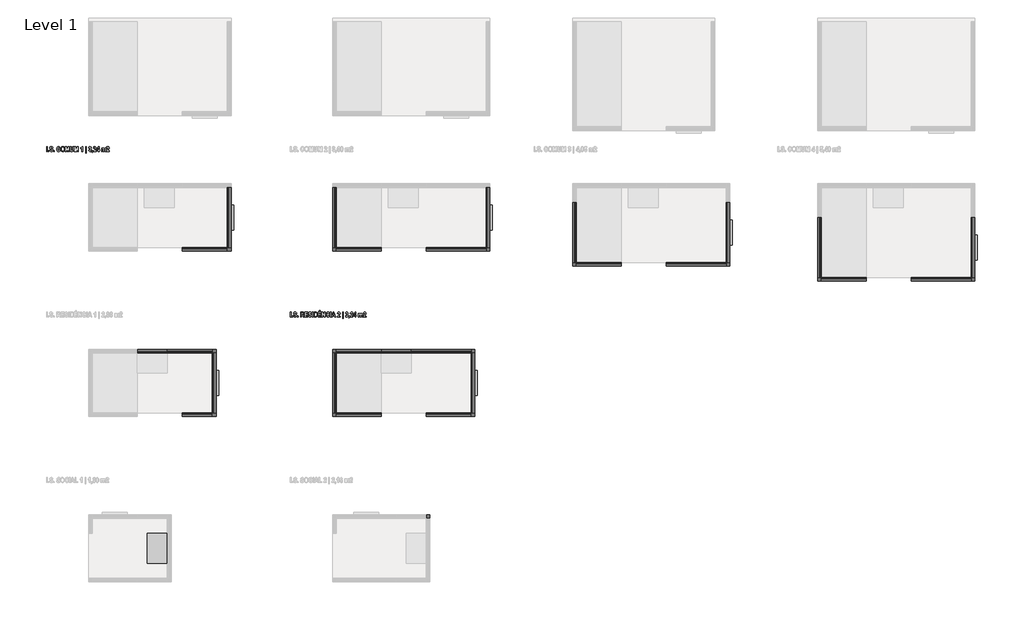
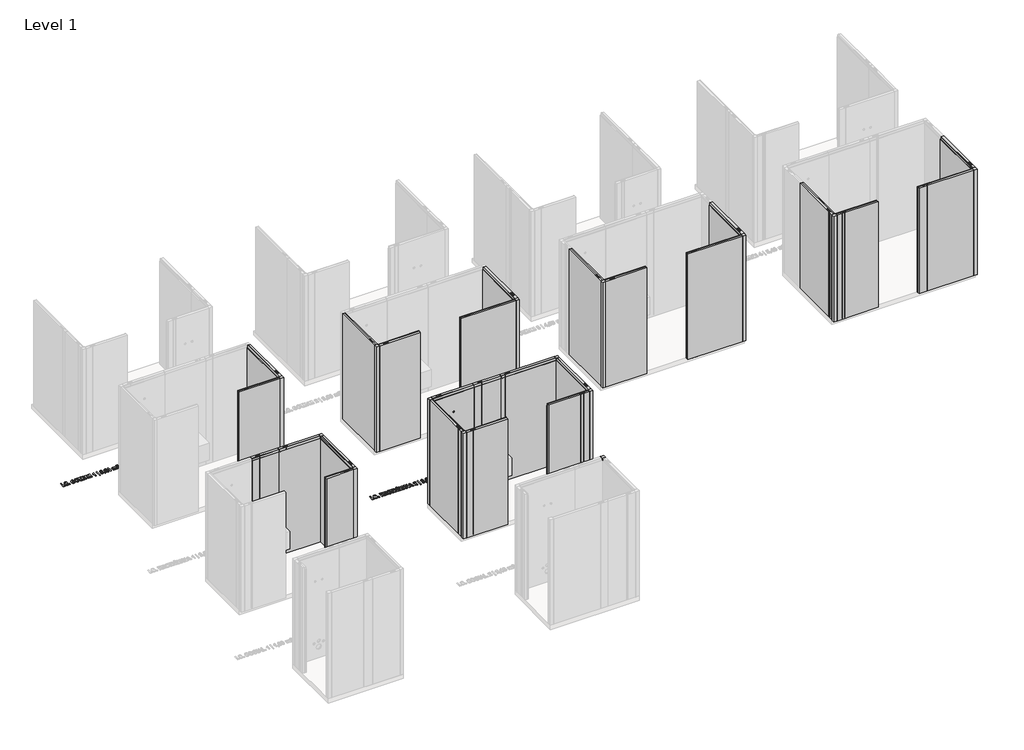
# One storey, part 3 of 10: 43 proxies.
"""IFC4 building model written with IfcOpenShell, lengths in millimetres."""

from ifc_helpers import new_model, si_unit, origin, origin_with_axes, place, context, project, spatial, polyline, outline, extrude, transform, mapped, element, save
from components import generic_models_3c551f1f, generic_models_aefc3c11, generic_models_87fa6935, generic_models_34b291b7, generic_models_8d7f3108, generic_models_87e237a0, generic_models_7c24a650, generic_models_bfa109d8, generic_models_15d7caf9, generic_models_edb91717

model = new_model("IFC4")

# Units and contexts
model_context = context("Model", 3, world=origin())
ifc_project = project(units=[si_unit("LENGTHUNIT", "METRE", prefix="MILLI")], contexts=[model_context])

# Site, building, storey
site = spatial("IfcSite", under=ifc_project)
building = spatial("IfcBuilding", under=site)
storey = spatial("IfcBuildingStorey", under=building, Name="Level 1", Elevation=0.0)

# Proxies
placement = place(None, origin())
generic_models_shape = generic_models_3c551f1f(model_context)
element("IfcBuildingElementProxy", 1, Name="ParedeGeral_Blufab : Parede Geral - Largura 60 cm", ObjectType="ParedeGeral_Blufab : Parede Geral - Largura 60 cm", at=placement, inside=storey, context=model_context, shape_type="MappedRepresentation", body=[
    mapped(generic_models_shape, transform((-6371.3404571, -3398.9908622, 0.0), x_axis=(-1.0, 0.0, 0.0), y_axis=(0.0, -1.0, 0.0), z_axis=(0.0, 0.0, 1.0))),
])
generic_models_2_shape = generic_models_aefc3c11(model_context)
element("IfcBuildingElementProxy", 2, Name="ParedeGeral_Blufab : Parede Geral - Largura 90 cm", ObjectType="ParedeGeral_Blufab : Parede Geral - Largura 90 cm", at=placement, inside=storey, context=model_context, shape_type="MappedRepresentation", body=[
    mapped(generic_models_2_shape, transform((-7271.3404571, -2198.9908622, 0.0), x_axis=(1.0, 0.0, 0.0), y_axis=(0.0, 1.0, 0.0), z_axis=(0.0, 0.0, 1.0))),
])
element("IfcBuildingElementProxy", 3, Name="ParedeGeral_Blufab : Parede Geral - Largura 90 cm", ObjectType="ParedeGeral_Blufab : Parede Geral - Largura 90 cm", at=placement, inside=storey, context=model_context, shape_type="MappedRepresentation", body=[
    mapped(generic_models_2_shape, transform((-1196.3404571, -3398.9908622, 0.0), x_axis=(-1.0, 0.0, 0.0), y_axis=(0.0, -1.0, 0.0), z_axis=(0.0, 0.0, 1.0))),
])
generic_models_3_shape = generic_models_87fa6935(model_context)
element("IfcBuildingElementProxy", 4, Name="ParedeGeral_Blufab : Parede Geral - Largura 120 cm", ObjectType="ParedeGeral_Blufab : Parede Geral - Largura 120 cm", at=placement, inside=storey, context=model_context, shape_type="MappedRepresentation", body=[
    mapped(generic_models_3_shape, transform((-3896.3404571, -85.8090572, 0.0), x_axis=(0.0, 1.0, 0.0), y_axis=(-1.0, 0.0, 0.0), z_axis=(0.0, 0.0, 1.0))),
])
element("IfcBuildingElementProxy", 5, Name="ParedeGeral_Blufab : Parede Geral - Largura 120 cm", ObjectType="ParedeGeral_Blufab : Parede Geral - Largura 120 cm", at=placement, inside=storey, context=model_context, shape_type="MappedRepresentation", body=[
    mapped(generic_models_3_shape, transform((903.6595429, -385.8090572, 0.0), x_axis=(0.0, 1.0, 0.0), y_axis=(-1.0, 0.0, 0.0), z_axis=(0.0, 0.0, 1.0))),
])
element("IfcBuildingElementProxy", 6, Name="ParedeGeral_Blufab : Parede Geral - Largura 120 cm", ObjectType="ParedeGeral_Blufab : Parede Geral - Largura 120 cm", at=placement, inside=storey, context=model_context, shape_type="MappedRepresentation", body=[
    mapped(generic_models_3_shape, transform((5803.6595429, -685.8090572, 0.0), x_axis=(0.0, 1.0, 0.0), y_axis=(-1.0, 0.0, 0.0), z_axis=(0.0, 0.0, 1.0))),
])
element("IfcBuildingElementProxy", 7, Name="ParedeGeral_Blufab : Parede Geral - Largura 120 cm", ObjectType="ParedeGeral_Blufab : Parede Geral - Largura 120 cm", at=placement, inside=storey, context=model_context, shape_type="MappedRepresentation", body=[
    mapped(generic_models_3_shape, transform((-3896.3404571, -3398.9908622, 0.0), x_axis=(0.0, 1.0, 0.0), y_axis=(-1.0, 0.0, 0.0), z_axis=(0.0, 0.0, 1.0))),
])
element("IfcBuildingElementProxy", 8, Name="ParedeGeral_Blufab : Parede Geral - Largura 120 cm", ObjectType="ParedeGeral_Blufab : Parede Geral - Largura 120 cm", at=placement, inside=storey, context=model_context, shape_type="MappedRepresentation", body=[
    mapped(generic_models_3_shape, transform((-2396.3404571, -2198.9908622, 0.0), x_axis=(1.0, 0.0, 0.0), y_axis=(0.0, 1.0, 0.0), z_axis=(0.0, 0.0, 1.0))),
])
generic_models_4_shape = generic_models_34b291b7(model_context)
element("IfcBuildingElementProxy", 9, Name="ParedeLavatório_Blufab : Parede Lavatório - Largura 60 cm", ObjectType="ParedeLavatório_Blufab : Parede Lavatório - Largura 60 cm", at=placement, inside=storey, context=model_context, shape_type="MappedRepresentation", body=[
    mapped(generic_models_4_shape, transform((-7871.3404571, -2198.9908622, 0.0), x_axis=(1.0, 0.0, 0.0), y_axis=(0.0, 1.0, 0.0), z_axis=(0.0, 0.0, 1.0))),
])
element("IfcBuildingElementProxy", 10, Name="ParedeLavatório_Blufab : Parede Lavatório - Largura 60 cm", ObjectType="ParedeLavatório_Blufab : Parede Lavatório - Largura 60 cm", at=placement, inside=storey, context=model_context, shape_type="MappedRepresentation", body=[
    mapped(generic_models_4_shape, transform((-2996.3404571, -2198.9908622, 0.0), x_axis=(1.0, 0.0, 0.0), y_axis=(0.0, 1.0, 0.0), z_axis=(0.0, 0.0, 1.0))),
])
generic_models_5_shape = generic_models_8d7f3108(model_context)
element("IfcBuildingElementProxy", 11, Name="ParedeDuche_Blufab : Parede Duche- Largura 90 cm", ObjectType="ParedeDuche_Blufab : Parede Duche- Largura 90 cm", at=placement, inside=storey, context=model_context, shape_type="MappedRepresentation", body=[
    mapped(generic_models_5_shape, transform((-3896.3404571, -2198.9908622, 0.0), x_axis=(1.0, 0.0, 0.0), y_axis=(0.0, 1.0, 0.0), z_axis=(0.0, 0.0, 1.0))),
])
generic_models_6_shape = generic_models_87e237a0(model_context)
element("IfcBuildingElementProxy", 12, Name="PerfilCanto_Blufab : Parede Geral - Largura 60 cm", ObjectType="PerfilCanto_Blufab : Parede Geral - Largura 60 cm", at=placement, inside=storey, context=model_context, shape_type="MappedRepresentation", body=[
    mapped(generic_models_6_shape, transform((-6071.3404571, -158.8090572, 0.0), x_axis=(1.0, 0.0, 0.0), y_axis=(0.0, 1.0, 0.0), z_axis=(0.0, 0.0, 1.0))),
])
element("IfcBuildingElementProxy", 13, Name="PerfilCanto_Blufab : Parede Geral - Largura 60 cm", ObjectType="PerfilCanto_Blufab : Parede Geral - Largura 60 cm", at=placement, inside=storey, context=model_context, shape_type="MappedRepresentation", body=[
    mapped(generic_models_6_shape, transform((-3969.3404571, -158.8090572, 0.0), x_axis=(1.0, 0.0, 0.0), y_axis=(0.0, 1.0, 0.0), z_axis=(0.0, 0.0, 1.0))),
])
element("IfcBuildingElementProxy", 14, Name="PerfilCanto_Blufab : Parede Geral - Largura 60 cm", ObjectType="PerfilCanto_Blufab : Parede Geral - Largura 60 cm", at=placement, inside=storey, context=model_context, shape_type="MappedRepresentation", body=[
    mapped(generic_models_6_shape, transform((-896.3404571, -158.8090572, 0.0), x_axis=(1.0, 0.0, 0.0), y_axis=(0.0, 1.0, 0.0), z_axis=(0.0, 0.0, 1.0))),
])
element("IfcBuildingElementProxy", 15, Name="PerfilCanto_Blufab : Parede Geral - Largura 60 cm", ObjectType="PerfilCanto_Blufab : Parede Geral - Largura 60 cm", at=placement, inside=storey, context=model_context, shape_type="MappedRepresentation", body=[
    mapped(generic_models_6_shape, transform((830.6595429, -458.8090572, 0.0), x_axis=(1.0, 0.0, 0.0), y_axis=(0.0, 1.0, 0.0), z_axis=(0.0, 0.0, 1.0))),
])
element("IfcBuildingElementProxy", 16, Name="PerfilCanto_Blufab : Parede Geral - Largura 60 cm", ObjectType="PerfilCanto_Blufab : Parede Geral - Largura 60 cm", at=placement, inside=storey, context=model_context, shape_type="MappedRepresentation", body=[
    mapped(generic_models_6_shape, transform((3903.6595429, -458.8090572, 0.0), x_axis=(1.0, 0.0, 0.0), y_axis=(0.0, 1.0, 0.0), z_axis=(0.0, 0.0, 1.0))),
])
element("IfcBuildingElementProxy", 17, Name="PerfilCanto_Blufab : Parede Geral - Largura 60 cm", ObjectType="PerfilCanto_Blufab : Parede Geral - Largura 60 cm", at=placement, inside=storey, context=model_context, shape_type="MappedRepresentation", body=[
    mapped(generic_models_6_shape, transform((5730.6595429, -758.8090572, 0.0), x_axis=(1.0, 0.0, 0.0), y_axis=(0.0, 1.0, 0.0), z_axis=(0.0, 0.0, 1.0))),
])
element("IfcBuildingElementProxy", 18, Name="PerfilCanto_Blufab : Parede Geral - Largura 60 cm", ObjectType="PerfilCanto_Blufab : Parede Geral - Largura 60 cm", at=placement, inside=storey, context=model_context, shape_type="MappedRepresentation", body=[
    mapped(generic_models_6_shape, transform((8803.6595429, -758.8090572, 0.0), x_axis=(1.0, 0.0, 0.0), y_axis=(0.0, 1.0, 0.0), z_axis=(0.0, 0.0, 1.0))),
])
element("IfcBuildingElementProxy", 19, Name="PerfilCanto_Blufab : Parede Geral - Largura 60 cm", ObjectType="PerfilCanto_Blufab : Parede Geral - Largura 60 cm", at=placement, inside=storey, context=model_context, shape_type="MappedRepresentation", body=[
    mapped(generic_models_6_shape, transform((-6371.3404571, -2198.9908622, 0.0), x_axis=(1.0, 0.0, 0.0), y_axis=(0.0, 1.0, 0.0), z_axis=(0.0, 0.0, 1.0))),
])
element("IfcBuildingElementProxy", 20, Name="PerfilCanto_Blufab : Parede Geral - Largura 60 cm", ObjectType="PerfilCanto_Blufab : Parede Geral - Largura 60 cm", at=placement, inside=storey, context=model_context, shape_type="MappedRepresentation", body=[
    mapped(generic_models_6_shape, transform((-6371.3404571, -3471.9908622, 0.0), x_axis=(1.0, 0.0, 0.0), y_axis=(0.0, 1.0, 0.0), z_axis=(0.0, 0.0, 1.0))),
])
element("IfcBuildingElementProxy", 21, Name="PerfilCanto_Blufab : Parede Geral - Largura 60 cm", ObjectType="PerfilCanto_Blufab : Parede Geral - Largura 60 cm", at=placement, inside=storey, context=model_context, shape_type="MappedRepresentation", body=[
    mapped(generic_models_6_shape, transform((-3969.3404571, -2198.9908622, 0.0), x_axis=(1.0, 0.0, 0.0), y_axis=(0.0, 1.0, 0.0), z_axis=(0.0, 0.0, 1.0))),
])
element("IfcBuildingElementProxy", 22, Name="PerfilCanto_Blufab : Parede Geral - Largura 60 cm", ObjectType="PerfilCanto_Blufab : Parede Geral - Largura 60 cm", at=placement, inside=storey, context=model_context, shape_type="MappedRepresentation", body=[
    mapped(generic_models_6_shape, transform((-3969.3404571, -3471.9908622, 0.0), x_axis=(1.0, 0.0, 0.0), y_axis=(0.0, 1.0, 0.0), z_axis=(0.0, 0.0, 1.0))),
])
element("IfcBuildingElementProxy", 23, Name="PerfilCanto_Blufab : Parede Geral - Largura 60 cm", ObjectType="PerfilCanto_Blufab : Parede Geral - Largura 60 cm", at=placement, inside=storey, context=model_context, shape_type="MappedRepresentation", body=[
    mapped(generic_models_6_shape, transform((-1196.3404571, -2198.9908622, 0.0), x_axis=(1.0, 0.0, 0.0), y_axis=(0.0, 1.0, 0.0), z_axis=(0.0, 0.0, 1.0))),
])
element("IfcBuildingElementProxy", 24, Name="PerfilCanto_Blufab : Parede Geral - Largura 60 cm", ObjectType="PerfilCanto_Blufab : Parede Geral - Largura 60 cm", at=placement, inside=storey, context=model_context, shape_type="MappedRepresentation", body=[
    mapped(generic_models_6_shape, transform((-1196.3404571, -3471.9908622, 0.0), x_axis=(1.0, 0.0, 0.0), y_axis=(0.0, 1.0, 0.0), z_axis=(0.0, 0.0, 1.0))),
])
element("IfcBuildingElementProxy", 25, Name="PerfilCanto_Blufab : Parede Geral - Largura 60 cm", ObjectType="PerfilCanto_Blufab : Parede Geral - Largura 60 cm", at=placement, inside=storey, context=model_context, shape_type="MappedRepresentation", body=[
    mapped(generic_models_6_shape, transform((-2096.3404571, -5512.1726672, 0.0), x_axis=(1.0, 0.0, 0.0), y_axis=(0.0, 1.0, 0.0), z_axis=(0.0, 0.0, 1.0))),
])
element("IfcBuildingElementProxy", 26, Name="PerfilCanto_Blufab : Parede Geral - Largura 60 cm", ObjectType="PerfilCanto_Blufab : Parede Geral - Largura 60 cm", at=placement, inside=storey, context=model_context, shape_type="MappedRepresentation", body=[
    mapped(generic_models_6_shape, transform((-2096.3404571, -5512.1726672, 0.0), x_axis=(1.0, 0.0, 0.0), y_axis=(0.0, 1.0, 0.0), z_axis=(0.0, 0.0, 1.0))),
])
generic_models_7_shape = generic_models_7c24a650(model_context)
element("IfcBuildingElementProxy", 27, Name="ParedeGeral_Blufab : Parede Geral - Largura 90 cm", ObjectType="ParedeGeral_Blufab : Parede Geral - Largura 90 cm", at=placement, inside=storey, context=model_context, shape_type="MappedRepresentation", body=[
    mapped(generic_models_7_shape, transform((-6971.3404571, -85.8090572, 0.0), x_axis=(1.0, 0.0, 0.0), y_axis=(0.0, 1.0, 0.0), z_axis=(0.0, 0.0, 1.0))),
])
element("IfcBuildingElementProxy", 28, Name="ParedeGeral_Blufab : Parede Geral - Largura 90 cm", ObjectType="ParedeGeral_Blufab : Parede Geral - Largura 90 cm", at=placement, inside=storey, context=model_context, shape_type="MappedRepresentation", body=[
    mapped(generic_models_7_shape, transform((-3896.3404571, -85.8090572, 0.0), x_axis=(1.0, 0.0, 0.0), y_axis=(0.0, 1.0, 0.0), z_axis=(0.0, 0.0, 1.0))),
])
element("IfcBuildingElementProxy", 29, Name="ParedeGeral_Blufab : Parede Geral - Largura 90 cm", ObjectType="ParedeGeral_Blufab : Parede Geral - Largura 90 cm", at=placement, inside=storey, context=model_context, shape_type="MappedRepresentation", body=[
    mapped(generic_models_7_shape, transform((903.6595429, -385.8090572, 0.0), x_axis=(1.0, 0.0, 0.0), y_axis=(0.0, 1.0, 0.0), z_axis=(0.0, 0.0, 1.0))),
])
element("IfcBuildingElementProxy", 30, Name="ParedeGeral_Blufab : Parede Geral - Largura 90 cm", ObjectType="ParedeGeral_Blufab : Parede Geral - Largura 90 cm", at=placement, inside=storey, context=model_context, shape_type="MappedRepresentation", body=[
    mapped(generic_models_7_shape, transform((5803.6595429, -685.8090572, 0.0), x_axis=(1.0, 0.0, 0.0), y_axis=(0.0, 1.0, 0.0), z_axis=(0.0, 0.0, 1.0))),
])
element("IfcBuildingElementProxy", 31, Name="ParedeGeral_Blufab : Parede Geral - Largura 90 cm", ObjectType="ParedeGeral_Blufab : Parede Geral - Largura 90 cm", at=placement, inside=storey, context=model_context, shape_type="MappedRepresentation", body=[
    mapped(generic_models_7_shape, transform((-3896.3404571, -3398.9908622, 0.0), x_axis=(1.0, 0.0, 0.0), y_axis=(0.0, 1.0, 0.0), z_axis=(0.0, 0.0, 1.0))),
])
generic_models_8_shape = generic_models_bfa109d8(model_context)
element("IfcBuildingElementProxy", 32, Name="ParedeGeral_Blufab : Parede Geral - Largura 120 cm", ObjectType="ParedeGeral_Blufab : Parede Geral - Largura 120 cm", at=placement, inside=storey, context=model_context, shape_type="MappedRepresentation", body=[
    mapped(generic_models_8_shape, transform((-2096.3404571, -85.8090572, 0.0), x_axis=(1.0, 0.0, 0.0), y_axis=(0.0, 1.0, 0.0), z_axis=(0.0, 0.0, 1.0))),
])
element("IfcBuildingElementProxy", 33, Name="ParedeGeral_Blufab : Parede Geral - Largura 120 cm", ObjectType="ParedeGeral_Blufab : Parede Geral - Largura 120 cm", at=placement, inside=storey, context=model_context, shape_type="MappedRepresentation", body=[
    mapped(generic_models_8_shape, transform((2703.6595429, -385.8090572, 0.0), x_axis=(1.0, 0.0, 0.0), y_axis=(0.0, 1.0, 0.0), z_axis=(0.0, 0.0, 1.0))),
])
element("IfcBuildingElementProxy", 34, Name="ParedeGeral_Blufab : Parede Geral - Largura 120 cm", ObjectType="ParedeGeral_Blufab : Parede Geral - Largura 120 cm", at=placement, inside=storey, context=model_context, shape_type="MappedRepresentation", body=[
    mapped(generic_models_8_shape, transform((7603.6595429, -685.8090572, 0.0), x_axis=(1.0, 0.0, 0.0), y_axis=(0.0, 1.0, 0.0), z_axis=(0.0, 0.0, 1.0))),
])
generic_models_9_shape = generic_models_15d7caf9(model_context)
element("IfcBuildingElementProxy", 35, Name="Movél1 : Movél", ObjectType="Movél1 : Movél", at=placement, inside=storey, context=model_context, shape_type="MappedRepresentation", body=[
    mapped(generic_models_9_shape, transform((-18351.7778994, 13179.3735786, 0.0), x_axis=(0.0, -1.0, 0.0), y_axis=(1.0, 0.0, 0.0), z_axis=(0.0, 0.0, 1.0))),
])
generic_models_10_shape = generic_models_edb91717(model_context)
element("IfcBuildingElementProxy", 36, Name="ParedeSanita_Blufab : Parede Sanita- Largura 120 cm", ObjectType="ParedeSanita_Blufab : Parede Sanita- Largura 120 cm", at=placement, inside=storey, context=model_context, shape_type="MappedRepresentation", body=[
    mapped(generic_models_10_shape, transform((-6071.3404571, -85.8090572, 0.0), x_axis=(0.0, 1.0, 0.0), y_axis=(-1.0, 0.0, 0.0), z_axis=(0.0, 0.0, 1.0))),
])
element("IfcBuildingElementProxy", 37, Name="ParedeSanita_Blufab : Parede Sanita- Largura 120 cm", ObjectType="ParedeSanita_Blufab : Parede Sanita- Largura 120 cm", at=placement, inside=storey, context=model_context, shape_type="MappedRepresentation", body=[
    mapped(generic_models_10_shape, transform((-896.3404571, -85.8090572, 0.0), x_axis=(0.0, 1.0, 0.0), y_axis=(-1.0, 0.0, 0.0), z_axis=(0.0, 0.0, 1.0))),
])
element("IfcBuildingElementProxy", 38, Name="ParedeSanita_Blufab : Parede Sanita- Largura 120 cm", ObjectType="ParedeSanita_Blufab : Parede Sanita- Largura 120 cm", at=placement, inside=storey, context=model_context, shape_type="MappedRepresentation", body=[
    mapped(generic_models_10_shape, transform((3903.6595429, -385.8090572, 0.0), x_axis=(0.0, 1.0, 0.0), y_axis=(-1.0, 0.0, 0.0), z_axis=(0.0, 0.0, 1.0))),
])
element("IfcBuildingElementProxy", 39, Name="ParedeSanita_Blufab : Parede Sanita- Largura 120 cm", ObjectType="ParedeSanita_Blufab : Parede Sanita- Largura 120 cm", at=placement, inside=storey, context=model_context, shape_type="MappedRepresentation", body=[
    mapped(generic_models_10_shape, transform((8803.6595429, -685.8090572, 0.0), x_axis=(0.0, 1.0, 0.0), y_axis=(-1.0, 0.0, 0.0), z_axis=(0.0, 0.0, 1.0))),
])
element("IfcBuildingElementProxy", 40, Name="ParedeSanita_Blufab : Parede Sanita- Largura 120 cm", ObjectType="ParedeSanita_Blufab : Parede Sanita- Largura 120 cm", at=placement, inside=storey, context=model_context, shape_type="MappedRepresentation", body=[
    mapped(generic_models_10_shape, transform((-6371.3404571, -3398.9908622, 0.0), x_axis=(0.0, 1.0, 0.0), y_axis=(-1.0, 0.0, 0.0), z_axis=(0.0, 0.0, 1.0))),
])
element("IfcBuildingElementProxy", 41, Name="ParedeSanita_Blufab : Parede Sanita- Largura 120 cm", ObjectType="ParedeSanita_Blufab : Parede Sanita- Largura 120 cm", at=placement, inside=storey, context=model_context, shape_type="MappedRepresentation", body=[
    mapped(generic_models_10_shape, transform((-1196.3404571, -3398.9908622, 0.0), x_axis=(0.0, 1.0, 0.0), y_axis=(-1.0, 0.0, 0.0), z_axis=(0.0, 0.0, 1.0))),
])
element("IfcBuildingElementProxy", 42, Name="24\" Arial", ObjectType="24\" Arial", at=placement, inside=storey, context=model_context, shape_type="SweptSolid", body=[
    extrude(outline(polyline([(-9690.0185436, 1831.1816336), (-9690.0185436, 1931.9002374), (-9673.7736075, 1931.9002374), (-9673.7736075, 1831.1816336), (-9690.0185436, 1831.1816336)])), origin_with_axes(), (0.0, 0.0, 1.0), 10.0),
    extrude(outline(polyline([(-9657.5286714, 1831.1816336), (-9657.5286714, 1850.6755569), (-9641.2837353, 1850.6755569), (-9641.2837353, 1831.1816336), (-9657.5286714, 1831.1816336)])), origin_with_axes(), (0.0, 0.0, 1.0), 10.0),
    extrude(outline(polyline([(-9628.2877864, 1863.6715058), (-9612.0428504, 1865.2959994), (-9606.1857894, 1851.8939271), (-9594.0972725, 1847.4265697), (-9582.2435457, 1851.1832112), (-9577.9284846, 1860.473284), (-9579.4514473, 1866.0067154), (-9584.0964837, 1869.7633568), (-9598.9707533, 1874.9668129), (-9614.3653686, 1882.0739725), (-9622.14517, 1892.0239958), (-9625.0387992, 1905.2991545), (-9621.2948491, 1920.1607328), (-9610.9640851, 1930.1488302), (-9594.6810749, 1933.524731), (-9581.7295458, 1931.630546), (-9571.9635471, 1925.9479913), (-9565.7130541, 1916.7435851), (-9563.3080421, 1904.283846), (-9579.5529782, 1902.6593524), (-9584.2995454, 1912.7743634), (-9594.7318403, 1915.6553013), (-9605.1387525, 1912.9139683), (-9608.7938631, 1906.1114013), (-9605.9256166, 1899.3849825), (-9591.3559396, 1892.9631562), (-9573.3342136, 1885.0691325), (-9564.6787086, 1874.9287388), (-9561.6835485, 1859.8387162), (-9563.6856099, 1848.0421005), (-9569.6917943, 1838.2887932), (-9579.9622744, 1831.7400533), (-9594.757223, 1829.55714), (-9608.1513632, 1831.6892879), (-9618.2045038, 1838.0857314), (-9624.9166449, 1848.7464708), (-9628.2877864, 1863.6715058)])), origin_with_axes(), (0.0, 0.0, 1.0), 10.0),
    extrude(outline(polyline([(-9548.6875996, 1831.1816336), (-9548.6875996, 1850.6755569), (-9532.4426635, 1850.6755569), (-9532.4426635, 1831.1816336), (-9548.6875996, 1831.1816336)])), origin_with_axes(), (0.0, 0.0, 1.0), 10.0),
    extrude(outline(polyline([(-9431.7240598, 1868.5449866), (-9415.4791237, 1862.0470122), (-9420.4795181, 1847.420224), (-9427.9674183, 1837.3496328), (-9437.7080343, 1831.5052632), (-9449.4665759, 1829.55714), (-9463.9918332, 1832.6601766), (-9475.4838564, 1841.9692865), (-9484.0885959, 1858.8107163), (-9486.9568425, 1880.6525405), (-9484.0632132, 1903.5731301), (-9475.3823255, 1920.9095228), (-9463.5984012, 1930.3709289), (-9448.3497365, 1933.524731), (-9435.6456889, 1931.1704844), (-9425.2007026, 1924.1077446), (-9415.4791237, 1904.283846), (-9431.7240598, 1899.4103652), (-9438.1712688, 1911.4671537), (-9449.5173413, 1915.6553013), (-9458.0205501, 1913.6976596), (-9464.7977343, 1907.8247344), (-9469.2333634, 1897.4400321), (-9470.7119064, 1881.9470589), (-9469.2904745, 1865.9400857), (-9465.0261787, 1855.3332847), (-9458.4901302, 1849.4032484), (-9450.25344, 1847.4265697), (-9438.7296885, 1852.4904209), (-9431.7240598, 1868.5449866)])), origin_with_axes(), (0.0, 0.0, 1.0), 10.0),
    extrude(outline(polyline([(-9404.1076684, 1880.9317504), (-9398.8153728, 1910.515302), (-9384.9944858, 1927.826312), (-9375.5584624, 1932.1001262), (-9364.307575, 1933.524731), (-9348.3228117, 1930.1456574), (-9335.599727, 1920.0084365), (-9327.2805429, 1903.633414), (-9324.5074816, 1881.5409355), (-9327.4455306, 1859.0645434), (-9336.2596775, 1842.0962), (-9348.4053055, 1832.691905), (-9364.2314269, 1829.55714), (-9380.1717704, 1832.6601766), (-9392.3554725, 1841.9692865), (-9401.1696194, 1858.8043706), (-9404.1076684, 1880.9317504)]), holes=[polyline([(-9387.8627323, 1881.6170836), (-9386.1620906, 1866.6508017), (-9381.0601653, 1855.9678525), (-9373.4453515, 1849.5618904), (-9364.2060441, 1847.4265697), (-9354.9445269, 1849.5460262), (-9347.4153797, 1855.9043957), (-9342.4181582, 1866.6539745), (-9340.7524177, 1881.9470589), (-9342.3737384, 1896.9323779), (-9347.2377007, 1907.418611), (-9354.7224281, 1913.5961287), (-9364.2060441, 1915.6553013), (-9373.7150429, 1913.5770917), (-9381.2759184, 1907.3424629), (-9386.2160288, 1896.7546989), (-9387.8627323, 1881.6170836)])]), origin_with_axes(), (0.0, 0.0, 1.0), 10.0),
    extrude(outline(polyline([(-9311.5115327, 1831.1816336), (-9311.5115327, 1931.9002374), (-9284.6566227, 1931.9002374), (-9271.7114393, 1861.5647406), (-9258.4108979, 1931.9002374), (-9231.9113459, 1931.9002374), (-9231.9113459, 1831.1816336), (-9248.156282, 1831.1816336), (-9248.156282, 1912.1017215), (-9263.5382058, 1831.1816336), (-9280.3415616, 1831.1816336), (-9295.2665966, 1912.1017215), (-9295.2665966, 1831.1816336), (-9311.5115327, 1831.1816336)])), origin_with_axes(), (0.0, 0.0, 1.0), 10.0),
    extrude(outline(polyline([(-9215.6664098, 1931.9002374), (-9199.4214737, 1931.9002374), (-9199.4214737, 1877.7335286), (-9198.8122886, 1861.2855308), (-9193.5580671, 1851.0436063), (-9182.6181179, 1847.4265697), (-9173.2392056, 1849.9902237), (-9168.2641939, 1857.0846919), (-9166.9316015, 1876.5659238), (-9166.9316015, 1931.9002374), (-9150.6866654, 1931.9002374), (-9150.6866654, 1879.0534296), (-9152.8188133, 1849.7744706), (-9156.2898992, 1841.6075828), (-9162.4388614, 1835.1540281), (-9171.1197491, 1830.956362), (-9182.1866118, 1829.55714), (-9202.0739672, 1834.1894851), (-9212.4428053, 1847.2361994), (-9215.6664098, 1878.2158001), (-9215.6664098, 1931.9002374)])), origin_with_axes(), (0.0, 0.0, 1.0), 10.0),
    extrude(outline(polyline([(-9132.8172357, 1831.1816336), (-9132.8172357, 1931.9002374), (-9105.9623258, 1931.9002374), (-9093.0171423, 1861.5647406), (-9079.7166009, 1931.9002374), (-9053.2170489, 1931.9002374), (-9053.2170489, 1831.1816336), (-9069.461985, 1831.1816336), (-9069.461985, 1912.1017215), (-9084.8439088, 1831.1816336), (-9101.6472646, 1831.1816336), (-9116.5722996, 1912.1017215), (-9116.5722996, 1831.1816336), (-9132.8172357, 1831.1816336)])), origin_with_axes(), (0.0, 0.0, 1.0), 10.0),
    extrude(outline(polyline([(-8967.1188876, 1831.1816336), (-8983.3638237, 1831.1816336), (-8983.3638237, 1904.283846), (-9002.857747, 1889.6634035), (-9002.857747, 1907.5328332), (-8989.392218, 1916.6959925), (-8979.7087131, 1931.9002374), (-8967.1188876, 1931.9002374), (-8967.1188876, 1831.1816336)])), origin_with_axes(), (0.0, 0.0, 1.0), 10.0),
    extrude(outline(polyline([(-8907.0126241, 1801.9407487), (-8907.0126241, 1933.524731), (-8894.0166752, 1933.524731), (-8894.0166752, 1801.9407487), (-8907.0126241, 1801.9407487)])), origin_with_axes(), (0.0, 0.0, 1.0), 10.0),
    extrude(outline(polyline([(-8846.9063606, 1858.798025), (-8830.6614245, 1860.4225186), (-8827.1078447, 1849.5587176), (-8820.0768333, 1845.8020761), (-8812.6016244, 1850.2567422), (-8809.5430075, 1862.6054319), (-8812.7031553, 1874.116492), (-8820.3560431, 1878.2919483), (-8827.4124372, 1876.8451336), (-8825.7117955, 1894.5368844), (-8816.218661, 1897.4305136), (-8812.7919948, 1905.9083396), (-8815.3429574, 1913.0662646), (-8821.8790059, 1915.6553013), (-8828.8084864, 1912.36824), (-8832.2859181, 1902.6593524), (-8846.9063606, 1904.283846), (-8843.5336326, 1916.7943505), (-8837.9843371, 1925.3388061), (-8830.4805726, 1930.2598796), (-8821.2444381, 1931.9002374), (-8811.0659703, 1929.9616327), (-8803.2227121, 1924.1458187), (-8798.215972, 1915.975758), (-8796.5470587, 1906.9744136), (-8799.5929842, 1895.5141188), (-8808.7307607, 1886.5667126), (-8797.6004413, 1878.2158001), (-8793.2980715, 1862.0977776), (-8795.3033058, 1849.2255695), (-8801.3190087, 1838.783756), (-8810.1014272, 1831.863794), (-8820.4068086, 1829.55714), (-8830.19819, 1831.5179546), (-8838.3523864, 1837.4003982), (-8844.1586819, 1846.671434), (-8846.9063606, 1858.798025)])), origin_with_axes(), (0.0, 0.0, 1.0), 10.0),
    extrude(outline(polyline([(-8780.3021226, 1850.6755569), (-8764.0571865, 1850.6755569), (-8764.0571865, 1836.715065), (-8766.9508157, 1819.0740797), (-8778.855308, 1808.4387231), (-8781.9266162, 1816.3581294), (-8774.5783209, 1821.650425), (-8772.1796545, 1831.1816336), (-8780.3021226, 1831.1816336), (-8780.3021226, 1850.6755569)])), origin_with_axes(), (0.0, 0.0, 1.0), 10.0),
    extrude(outline(polyline([(-8697.4529485, 1847.4265697), (-8697.4529485, 1831.1816336), (-8752.6857312, 1831.1816336), (-8747.3045962, 1850.3836557), (-8729.8412899, 1874.2814797), (-8717.200699, 1890.2218232), (-8713.6978846, 1902.430908), (-8716.5280571, 1912.3174746), (-8723.9525005, 1915.6553013), (-8731.7069192, 1912.0001907), (-8734.8163015, 1901.0348588), (-8751.0612376, 1902.6593524), (-8748.1993368, 1915.7536593), (-8742.5072635, 1924.8311519), (-8734.2261535, 1930.132966), (-8723.5971426, 1931.9002374), (-8712.2225145, 1929.7553981), (-8704.0397625, 1923.3208805), (-8699.099652, 1914.1133015), (-8697.4529485, 1903.6492782), (-8699.1282076, 1891.4782675), (-8704.2935896, 1879.6118493), (-8715.9315633, 1864.3822217), (-8725.5389201, 1852.8584702), (-8728.8005986, 1847.4265697), (-8697.4529485, 1847.4265697)])), origin_with_axes(), (0.0, 0.0, 1.0), 10.0),
    extrude(outline(polyline([(-8656.8406083, 1831.1816336), (-8656.8406083, 1850.6755569), (-8689.3304805, 1850.6755569), (-8689.3304805, 1866.8443449), (-8654.7338432, 1931.9002374), (-8640.5956722, 1931.9002374), (-8640.5956722, 1866.920493), (-8630.8487106, 1866.920493), (-8630.8487106, 1850.6755569), (-8640.5956722, 1850.6755569), (-8640.5956722, 1831.1816336), (-8656.8406083, 1831.1816336)]), holes=[polyline([(-8656.8406083, 1866.920493), (-8656.8406083, 1901.9232537), (-8675.065396, 1866.920493), (-8656.8406083, 1866.920493)])]), origin_with_axes(), (0.0, 0.0, 1.0), 10.0),
    extrude(outline(polyline([(-8588.6118767, 1904.283846), (-8573.9914343, 1904.283846), (-8573.9914343, 1894.3845881), (-8565.4374601, 1903.0527844), (-8555.3859059, 1905.9083396), (-8545.4485739, 1903.0400931), (-8538.5571674, 1894.3592054), (-8530.0539587, 1903.0400931), (-8520.3831452, 1905.9083396), (-8509.8873935, 1902.9893277), (-8503.1863573, 1894.6257239), (-8500.8892219, 1877.9112076), (-8500.8892219, 1831.1816336), (-8517.1341579, 1831.1816336), (-8517.1341579, 1871.9462701), (-8518.9997873, 1886.1352065), (-8525.256626, 1889.6634035), (-8533.5060076, 1884.7264659), (-8536.6280813, 1865.422913), (-8536.6280813, 1831.1816336), (-8552.8730173, 1831.1816336), (-8552.8730173, 1870.2710111), (-8554.1167703, 1885.2214288), (-8560.7924237, 1889.6634035), (-8567.0111883, 1887.3789594), (-8571.1104964, 1880.703306), (-8572.3669406, 1865.8290364), (-8572.3669406, 1831.1816336), (-8588.6118767, 1831.1816336), (-8588.6118767, 1904.283846)])), origin_with_axes(), (0.0, 0.0, 1.0), 10.0),
    extrude(outline(polyline([(-8435.9094775, 1847.4265697), (-8435.9094775, 1831.1816336), (-8491.1422602, 1831.1816336), (-8485.7611251, 1850.3836557), (-8468.2978188, 1874.2814797), (-8455.6572279, 1890.2218232), (-8452.1544136, 1902.430908), (-8454.984586, 1912.3174746), (-8462.4090295, 1915.6553013), (-8470.1634482, 1912.0001907), (-8473.2728305, 1901.0348588), (-8489.5177666, 1902.6593524), (-8486.6558657, 1915.7536593), (-8480.9637924, 1924.8311519), (-8472.6826824, 1930.132966), (-8462.0536715, 1931.9002374), (-8450.6790434, 1929.7553981), (-8442.4962914, 1923.3208805), (-8437.556181, 1914.1133015), (-8435.9094775, 1903.6492782), (-8437.5847365, 1891.4782675), (-8442.7501186, 1879.6118493), (-8454.3880923, 1864.3822217), (-8463.995449, 1852.8584702), (-8467.2571276, 1847.4265697), (-8435.9094775, 1847.4265697)])), origin_with_axes(), (0.0, 0.0, 1.0), 10.0),
])
element("IfcBuildingElementProxy", 43, Name="24\" Arial", ObjectType="24\" Arial", at=placement, inside=storey, context=model_context, shape_type="SweptSolid", body=[
    extrude(outline(polyline([(-4815.0185436, -1482.0001714), (-4815.0185436, -1381.2815676), (-4798.7736075, -1381.2815676), (-4798.7736075, -1482.0001714), (-4815.0185436, -1482.0001714)])), origin_with_axes(), (0.0, 0.0, 1.0), 10.0),
    extrude(outline(polyline([(-4782.5286714, -1482.0001714), (-4782.5286714, -1462.506248), (-4766.2837353, -1462.506248), (-4766.2837353, -1482.0001714), (-4782.5286714, -1482.0001714)])), origin_with_axes(), (0.0, 0.0, 1.0), 10.0),
    extrude(outline(polyline([(-4753.2877864, -1449.5102992), (-4737.0428504, -1447.8858056), (-4731.1857894, -1461.2878778), (-4719.0972725, -1465.7552353), (-4707.2435457, -1461.9985938), (-4702.9284846, -1452.708521), (-4704.4514473, -1447.1750896), (-4709.0964837, -1443.4184481), (-4723.9707533, -1438.2149921), (-4739.3653686, -1431.1078325), (-4747.14517, -1421.1578092), (-4750.0387992, -1407.8826504), (-4746.2948491, -1393.0210722), (-4735.9640851, -1383.0329748), (-4719.6810749, -1379.657074), (-4706.7295458, -1381.5512589), (-4696.9635471, -1387.2338137), (-4690.7130541, -1396.4382199), (-4688.3080421, -1408.897959), (-4704.5529782, -1410.5224526), (-4709.2995454, -1400.4074416), (-4719.7318403, -1397.5265037), (-4730.1387525, -1400.2678367), (-4733.7938631, -1407.0704036), (-4730.9256166, -1413.7968225), (-4716.3559396, -1420.2186488), (-4698.3342136, -1428.1126724), (-4689.6787086, -1438.2530661), (-4686.6835485, -1453.3430888), (-4688.6856099, -1465.1397045), (-4694.6917943, -1474.8930118), (-4704.9622744, -1481.4417517), (-4719.757223, -1483.624665), (-4733.1513632, -1481.4925171), (-4743.2045038, -1475.0960735), (-4749.9166449, -1464.4353342), (-4753.2877864, -1449.5102992)])), origin_with_axes(), (0.0, 0.0, 1.0), 10.0),
    extrude(outline(polyline([(-4673.6875996, -1482.0001714), (-4673.6875996, -1462.506248), (-4657.4426635, -1462.506248), (-4657.4426635, -1482.0001714), (-4673.6875996, -1482.0001714)])), origin_with_axes(), (0.0, 0.0, 1.0), 10.0),
    extrude(outline(polyline([(-4608.7078553, -1482.0001714), (-4608.7078553, -1381.2815676), (-4574.0858352, -1381.2815676), (-4555.1122575, -1383.9848265), (-4545.7587279, -1393.3637388), (-4542.1036173, -1409.3294651), (-4543.490148, -1419.958476), (-4547.64974, -1428.2903514), (-4554.3602947, -1434.1410667), (-4563.3997132, -1437.3265971), (-4554.3253934, -1446.0328675), (-4544.4388268, -1462.4808653), (-4533.9811492, -1482.0001714), (-4555.8610475, -1482.0001714), (-4567.4101818, -1460.5010137), (-4575.9514646, -1445.5379046), (-4580.8249454, -1441.0070904), (-4589.0870184, -1439.7633375), (-4592.4629192, -1439.7633375), (-4592.4629192, -1482.0001714), (-4608.7078553, -1482.0001714)]), holes=[polyline([(-4592.4629192, -1423.5184014), (-4579.9492418, -1423.5184014), (-4565.3668734, -1422.5030929), (-4560.2903309, -1418.4164762), (-4558.3485534, -1410.2432427), (-4560.2903309, -1402.3746018), (-4565.5826265, -1398.2879851), (-4579.2639086, -1397.5265037), (-4592.4629192, -1397.5265037), (-4592.4629192, -1423.5184014)])]), origin_with_axes(), (0.0, 0.0, 1.0), 10.0),
    extrude(outline(polyline([(-4525.8586812, -1482.0001714), (-4525.8586812, -1381.2815676), (-4465.7524177, -1381.2815676), (-4465.7524177, -1397.5265037), (-4509.6137451, -1397.5265037), (-4509.6137451, -1421.8939078), (-4469.0014049, -1421.8939078), (-4469.0014049, -1438.1388439), (-4509.6137451, -1438.1388439), (-4509.6137451, -1465.7552353), (-4464.1279241, -1465.7552353), (-4464.1279241, -1482.0001714), (-4525.8586812, -1482.0001714)])), origin_with_axes(), (0.0, 0.0, 1.0), 10.0),
    extrude(outline(polyline([(-4452.7564688, -1449.5102992), (-4436.5115327, -1447.8858056), (-4430.6544718, -1461.2878778), (-4418.5659549, -1465.7552353), (-4406.7122281, -1461.9985938), (-4402.3971669, -1452.708521), (-4403.9201297, -1447.1750896), (-4408.5651661, -1443.4184481), (-4423.4394357, -1438.2149921), (-4438.8340509, -1431.1078325), (-4446.6138523, -1421.1578092), (-4449.5074816, -1407.8826504), (-4445.7635315, -1393.0210722), (-4435.4327674, -1383.0329748), (-4419.1497573, -1379.657074), (-4406.1982281, -1381.5512589), (-4396.4322294, -1387.2338137), (-4390.1817365, -1396.4382199), (-4387.7767244, -1408.897959), (-4404.0216605, -1410.5224526), (-4408.7682278, -1400.4074416), (-4419.2005227, -1397.5265037), (-4429.6074349, -1400.2678367), (-4433.2625455, -1407.0704036), (-4430.394299, -1413.7968225), (-4415.8246219, -1420.2186488), (-4397.8028959, -1428.1126724), (-4389.1473909, -1438.2530661), (-4386.1522308, -1453.3430888), (-4388.1542923, -1465.1397045), (-4394.1604767, -1474.8930118), (-4404.4309568, -1481.4417517), (-4419.2259054, -1483.624665), (-4432.6200456, -1481.4925171), (-4442.6731862, -1475.0960735), (-4449.3853273, -1464.4353342), (-4452.7564688, -1449.5102992)])), origin_with_axes(), (0.0, 0.0, 1.0), 10.0),
    extrude(outline(polyline([(-4373.156282, -1482.0001714), (-4373.156282, -1381.2815676), (-4356.9113459, -1381.2815676), (-4356.9113459, -1482.0001714), (-4373.156282, -1482.0001714)])), origin_with_axes(), (0.0, 0.0, 1.0), 10.0),
    extrude(outline(polyline([(-4340.6664098, -1381.2815676), (-4310.6894262, -1381.2815676), (-4293.5307124, -1383.8579129), (-4282.8699731, -1392.551492), (-4275.2170852, -1408.4156874), (-4272.4376782, -1432.6815607), (-4275.3439988, -1455.3737058), (-4282.7176768, -1470.6540988), (-4293.5180211, -1479.1446162), (-4309.8010312, -1482.0001714), (-4340.6664098, -1482.0001714), (-4340.6664098, -1381.2815676)]), holes=[polyline([(-4324.4214737, -1397.5265037), (-4324.4214737, -1465.7552353), (-4311.7808828, -1465.7552353), (-4300.0286868, -1464.2068898), (-4294.051058, -1459.5364707), (-4290.2055771, -1449.6625955), (-4288.6826143, -1431.8946966), (-4290.2436511, -1413.8222052), (-4295.1044406, -1403.4279844), (-4303.1253778, -1398.4402813), (-4316.7812772, -1397.5265037), (-4324.4214737, -1397.5265037)])]), origin_with_axes(), (0.0, 0.0, 1.0), 10.0),
    extrude(outline(polyline([(-4257.8172357, -1482.0001714), (-4257.8172357, -1381.2815676), (-4197.7109722, -1381.2815676), (-4197.7109722, -1397.5265037), (-4241.5722996, -1397.5265037), (-4241.5722996, -1421.8939078), (-4200.9599594, -1421.8939078), (-4200.9599594, -1438.1388439), (-4241.5722996, -1438.1388439), (-4241.5722996, -1465.7552353), (-4196.0864786, -1465.7552353), (-4196.0864786, -1482.0001714), (-4257.8172357, -1482.0001714)])), origin_with_axes(), (0.0, 0.0, 1.0), 10.0),
    extrude(outline(polyline([(-4246.4457805, -1374.7835932), (-4234.8712635, -1353.6651762), (-4220.5300309, -1353.6651762), (-4209.0824275, -1374.7835932), (-4222.0783763, -1374.7835932), (-4227.764104, -1365.0366315), (-4233.4498316, -1374.7835932), (-4246.4457805, -1374.7835932)])), origin_with_axes(), (0.0, 0.0, 1.0), 10.0),
    extrude(outline(polyline([(-4181.4660361, -1482.0001714), (-4181.4660361, -1381.2815676), (-4164.5865322, -1381.2815676), (-4132.7312278, -1448.5457561), (-4132.7312278, -1381.2815676), (-4116.4862917, -1381.2815676), (-4116.4862917, -1482.0001714), (-4133.8988326, -1482.0001714), (-4165.2211, -1416.309711), (-4165.2211, -1482.0001714), (-4181.4660361, -1482.0001714)])), origin_with_axes(), (0.0, 0.0, 1.0), 10.0),
    extrude(outline(polyline([(-4046.6330666, -1444.6368183), (-4030.3881305, -1451.1347928), (-4035.3885249, -1465.7615809), (-4042.8764251, -1475.8321722), (-4052.6170411, -1481.6765418), (-4064.3755827, -1483.624665), (-4078.90084, -1480.5216283), (-4090.3928632, -1471.2125185), (-4098.9976027, -1454.3710886), (-4101.8658493, -1432.5292644), (-4098.97222, -1409.6086749), (-4090.2913323, -1392.2722822), (-4078.507408, -1382.810876), (-4063.2587433, -1379.657074), (-4050.5546957, -1382.0113206), (-4040.1097094, -1389.0740604), (-4030.3881305, -1408.897959), (-4046.6330666, -1413.7714398), (-4053.0802756, -1401.7146513), (-4064.4263481, -1397.5265037), (-4072.9295569, -1399.4841454), (-4079.7067411, -1405.3570705), (-4084.1423702, -1415.7417728), (-4085.6209132, -1431.2347461), (-4084.1994813, -1447.2417192), (-4079.9351855, -1457.8485203), (-4073.399137, -1463.7785565), (-4065.1624468, -1465.7552353), (-4053.6386953, -1460.6913841), (-4046.6330666, -1444.6368183)])), origin_with_axes(), (0.0, 0.0, 1.0), 10.0),
    extrude(outline(polyline([(-4015.767688, -1482.0001714), (-4015.767688, -1381.2815676), (-3999.5227519, -1381.2815676), (-3999.5227519, -1482.0001714), (-4015.767688, -1482.0001714)])), origin_with_axes(), (0.0, 0.0, 1.0), 10.0),
    extrude(outline(polyline([(-3908.5511098, -1482.0001714), (-3925.5067618, -1482.0001714), (-3933.1977238, -1457.6327672), (-3966.7536699, -1457.6327672), (-3974.4446318, -1482.0001714), (-3991.4002839, -1482.0001714), (-3957.9204859, -1381.2815676), (-3942.0309078, -1381.2815676), (-3908.5511098, -1482.0001714)]), holes=[polyline([(-3938.3504144, -1441.3878311), (-3949.9756968, -1404.481367), (-3961.6009792, -1441.3878311), (-3938.3504144, -1441.3878311)])]), origin_with_axes(), (0.0, 0.0, 1.0), 10.0),
    extrude(outline(polyline([(-3817.5794677, -1465.7552353), (-3817.5794677, -1482.0001714), (-3872.8122504, -1482.0001714), (-3867.4311153, -1462.7981492), (-3849.967809, -1438.9003253), (-3837.3272181, -1422.9599818), (-3833.8244038, -1410.750897), (-3836.6545763, -1400.8643304), (-3844.0790197, -1397.5265037), (-3851.8334384, -1401.1816143), (-3854.9428207, -1412.1469462), (-3871.1877568, -1410.5224526), (-3868.325856, -1397.4281457), (-3862.6337826, -1388.3506531), (-3854.3526726, -1383.048839), (-3843.7236617, -1381.2815676), (-3832.3490336, -1383.4264068), (-3824.1662816, -1389.8609245), (-3819.2261712, -1399.0685035), (-3817.5794677, -1409.5325268), (-3819.2547267, -1421.7035375), (-3824.4201088, -1433.5699556), (-3836.0580825, -1448.7995832), (-3845.6654392, -1460.3233348), (-3848.9271178, -1465.7552353), (-3817.5794677, -1465.7552353)])), origin_with_axes(), (0.0, 0.0, 1.0), 10.0),
    extrude(outline(polyline([(-3770.469153, -1511.2410563), (-3770.469153, -1379.657074), (-3757.4732042, -1379.657074), (-3757.4732042, -1511.2410563), (-3770.469153, -1511.2410563)])), origin_with_axes(), (0.0, 0.0, 1.0), 10.0),
    extrude(outline(polyline([(-3710.3628895, -1454.38378), (-3694.1179534, -1452.7592864), (-3690.5643737, -1463.6230874), (-3683.5333623, -1467.3797289), (-3676.0581534, -1462.9250628), (-3672.9995365, -1450.5763731), (-3676.1596842, -1439.0653129), (-3683.8125721, -1434.8898567), (-3690.8689662, -1436.3366713), (-3689.1683245, -1418.6449206), (-3679.6751899, -1415.7512914), (-3676.2485237, -1407.2734653), (-3678.7994864, -1400.1155404), (-3685.3355349, -1397.5265037), (-3692.2650154, -1400.813565), (-3695.742447, -1410.5224526), (-3710.3628895, -1408.897959), (-3706.9901616, -1396.3874545), (-3701.440866, -1387.8429988), (-3693.9371016, -1382.9219254), (-3684.700967, -1381.2815676), (-3674.5224993, -1383.2201723), (-3666.6792411, -1389.0359863), (-3661.672501, -1397.2060469), (-3660.0035876, -1406.2073914), (-3663.0495132, -1417.6676862), (-3672.1872897, -1426.6150924), (-3661.0569702, -1434.9660048), (-3656.7546004, -1451.0840274), (-3658.7598347, -1463.9562355), (-3664.7755376, -1474.3980489), (-3673.5579562, -1481.318011), (-3683.8633375, -1483.624665), (-3693.6547189, -1481.6638504), (-3701.8089154, -1475.7814068), (-3707.6152109, -1466.510371), (-3710.3628895, -1454.38378)])), origin_with_axes(), (0.0, 0.0, 1.0), 10.0),
    extrude(outline(polyline([(-3643.7586516, -1462.506248), (-3627.5137155, -1462.506248), (-3627.5137155, -1476.46674), (-3630.4073447, -1494.1077253), (-3642.3118369, -1504.7430819), (-3645.3831452, -1496.8236755), (-3638.0348499, -1491.5313799), (-3635.6361835, -1482.0001714), (-3643.7586516, -1482.0001714), (-3643.7586516, -1462.506248)])), origin_with_axes(), (0.0, 0.0, 1.0), 10.0),
    extrude(outline(polyline([(-3560.9094775, -1465.7552353), (-3560.9094775, -1482.0001714), (-3616.1422602, -1482.0001714), (-3610.7611251, -1462.7981492), (-3593.2978188, -1438.9003253), (-3580.6572279, -1422.9599818), (-3577.1544136, -1410.750897), (-3579.984586, -1400.8643304), (-3587.4090295, -1397.5265037), (-3595.1634482, -1401.1816143), (-3598.2728305, -1412.1469462), (-3614.5177666, -1410.5224526), (-3611.6558657, -1397.4281457), (-3605.9637924, -1388.3506531), (-3597.6826824, -1383.048839), (-3587.0536715, -1381.2815676), (-3575.6790434, -1383.4264068), (-3567.4962914, -1389.8609245), (-3562.556181, -1399.0685035), (-3560.9094775, -1409.5325268), (-3562.5847365, -1421.7035375), (-3567.7501186, -1433.5699556), (-3579.3880923, -1448.7995832), (-3588.995449, -1460.3233348), (-3592.2571276, -1465.7552353), (-3560.9094775, -1465.7552353)])), origin_with_axes(), (0.0, 0.0, 1.0), 10.0),
    extrude(outline(polyline([(-3520.2971373, -1482.0001714), (-3520.2971373, -1462.506248), (-3552.7870095, -1462.506248), (-3552.7870095, -1446.3374601), (-3518.1903721, -1381.2815676), (-3504.0522012, -1381.2815676), (-3504.0522012, -1446.261312), (-3494.3052395, -1446.261312), (-3494.3052395, -1462.506248), (-3504.0522012, -1462.506248), (-3504.0522012, -1482.0001714), (-3520.2971373, -1482.0001714)]), holes=[polyline([(-3520.2971373, -1446.261312), (-3520.2971373, -1411.2585512), (-3538.521925, -1446.261312), (-3520.2971373, -1446.261312)])]), origin_with_axes(), (0.0, 0.0, 1.0), 10.0),
    extrude(outline(polyline([(-3452.0684057, -1408.897959), (-3437.4479632, -1408.897959), (-3437.4479632, -1418.7972169), (-3428.8939891, -1410.1290205), (-3418.8424349, -1407.2734653), (-3408.9051029, -1410.1417119), (-3402.0136964, -1418.8225996), (-3393.5104876, -1410.1417119), (-3383.8396741, -1407.2734653), (-3373.3439224, -1410.1924773), (-3366.6428863, -1418.5560811), (-3364.3457508, -1435.2705974), (-3364.3457508, -1482.0001714), (-3380.5906869, -1482.0001714), (-3380.5906869, -1441.2355349), (-3382.4563163, -1427.0465985), (-3388.713155, -1423.5184014), (-3396.9625366, -1428.455339), (-3400.0846102, -1447.758892), (-3400.0846102, -1482.0001714), (-3416.3295463, -1482.0001714), (-3416.3295463, -1442.9107939), (-3417.5732992, -1427.9603761), (-3424.2489526, -1423.5184014), (-3430.4677172, -1425.8028456), (-3434.5670253, -1432.478499), (-3435.8234696, -1447.3527686), (-3435.8234696, -1482.0001714), (-3452.0684057, -1482.0001714), (-3452.0684057, -1408.897959)])), origin_with_axes(), (0.0, 0.0, 1.0), 10.0),
    extrude(outline(polyline([(-3299.3660065, -1465.7552353), (-3299.3660065, -1482.0001714), (-3354.5987892, -1482.0001714), (-3349.2176541, -1462.7981492), (-3331.7543478, -1438.9003253), (-3319.1137569, -1422.9599818), (-3315.6109426, -1410.750897), (-3318.441115, -1400.8643304), (-3325.8655585, -1397.5265037), (-3333.6199772, -1401.1816143), (-3336.7293595, -1412.1469462), (-3352.9742956, -1410.5224526), (-3350.1123947, -1397.4281457), (-3344.4203214, -1388.3506531), (-3336.1392114, -1383.048839), (-3325.5102005, -1381.2815676), (-3314.1355724, -1383.4264068), (-3305.9528204, -1389.8609245), (-3301.0127099, -1399.0685035), (-3299.3660065, -1409.5325268), (-3301.0412655, -1421.7035375), (-3306.2066475, -1433.5699556), (-3317.8446213, -1448.7995832), (-3327.451978, -1460.3233348), (-3330.7136566, -1465.7552353), (-3299.3660065, -1465.7552353)])), origin_with_axes(), (0.0, 0.0, 1.0), 10.0),
])

save(model, "model.ifc")
